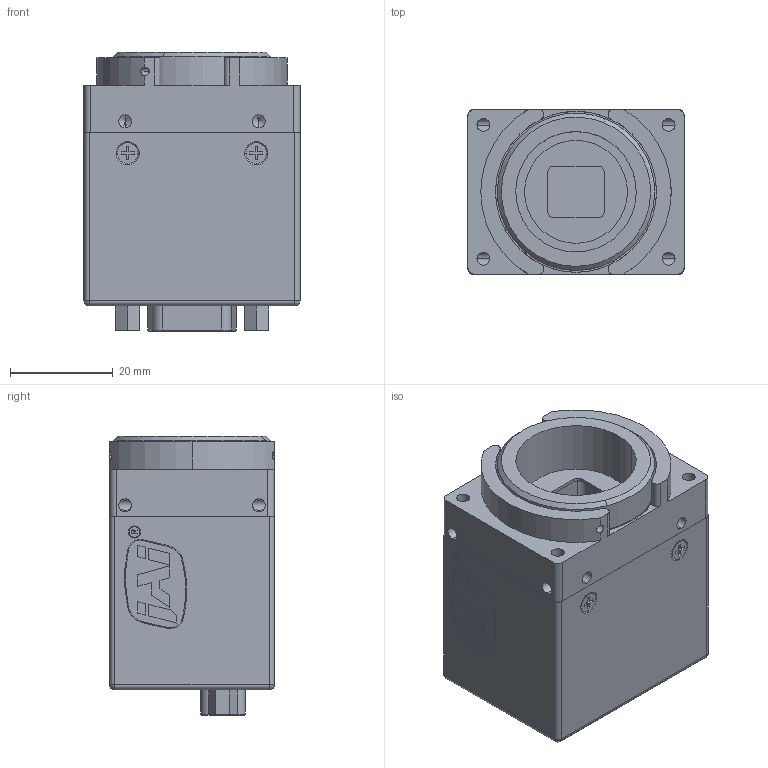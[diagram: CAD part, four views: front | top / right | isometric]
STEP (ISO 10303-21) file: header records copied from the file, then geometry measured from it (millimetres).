
FILE_DESCRIPTION (( 'STEP AP203' ), '1' );
FILE_NAME ('TM-77X BODY ONLY FEMALE CONNECTOR.STEP', '2014-04-07T22:49:48', ( '' ), ( '' ), 'SwSTEP 2.0', 'SolidWorks 2010', '' );
FILE_SCHEMA (( 'CONFIG_CONTROL_DESIGN' ));
Length unit declared in the file: millimetre
Products named in the file (12): M2_FLAT_4 mm_1; standoff_1; M2_MINI_5 mm_1; 10011784_1; 15_pin_HD_connector; 15 pin hd d sub female; TM-77X BODY ONLY FEMALE CONNECTOR; icx422al_1; 10009120_1; 10014258_1; 10014257_1; M2_PAN_HEAD_1
Assembly tree (18 placements, depth 2):
  15_pin_HD_connector
  TM-77X BODY ONLY FEMALE CONNECTOR
    M2_MINI_5 mm_1  x4
    M2_PAN_HEAD_1  x2
    10014257_1
    15 pin hd d sub female
    icx422al_1
    M2_FLAT_4 mm_1  x4
    10011784_1
    standoff_1  x2
    10014258_1
    10009120_1
Bounding box: 42.02 x 32 x 54.27 mm (x, y, z)
Volume: 24508.2 mm3; surface area: 30059.3 mm2
Topology: 18 solids, 18 shells, 1352 faces, 3393 edges, 2179 vertices
Faces by surface type: plane 791, cylinder 395, bspline 76, cone 70, torus 20
Entity records: 41099 total; most frequent: CARTESIAN_POINT 10784, ORIENTED_EDGE 5982, DIRECTION 5874, EDGE_CURVE 2991, VECTOR 2006, LINE 2006, VERTEX_POINT 1936, AXIS2_PLACEMENT_3D 1934
